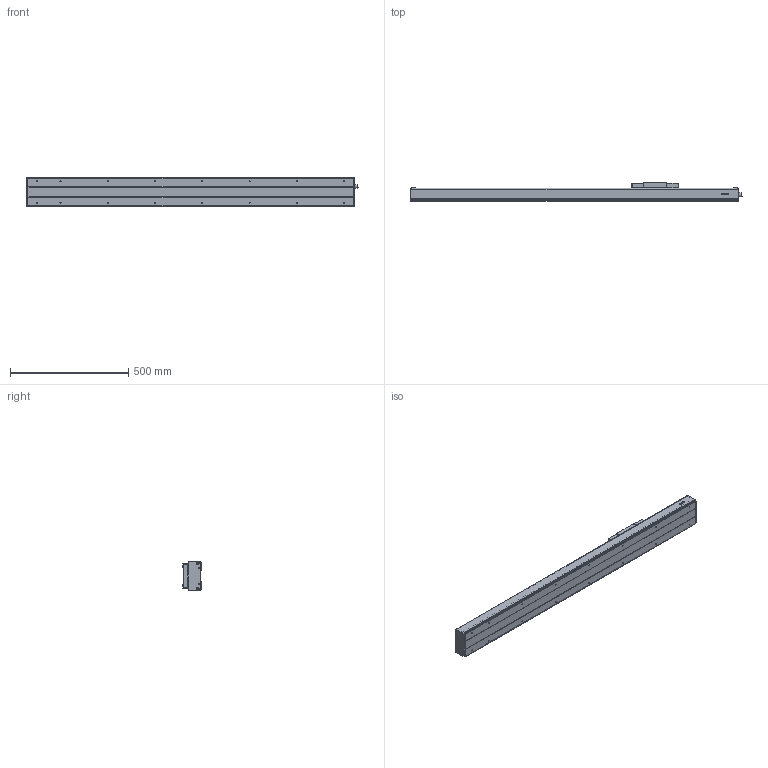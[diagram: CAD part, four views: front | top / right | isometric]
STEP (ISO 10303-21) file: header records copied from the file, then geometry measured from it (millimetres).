
FILE_DESCRIPTION(/* description */ (''),/* implementation_level */ '2;1');
FILE_NAME(/* name */ 'D:\混合母檔20191031\混和母檔\混和母檔\bin\Debug\Download\3D\KS120-5C-900AFI\KS120-5C-900AFI.stp',/* time_stamp */ '2019-11-04T15:05:48+08:00',/* author */ ('user'),/* organization */ (''),/* preprocessor_version */ 'ST-DEVELOPER v16.13',/* originating_system */ 'Autodesk Inventor 2018',/* authorisation */ '');
FILE_SCHEMA (('AUTOMOTIVE_DESIGN { 1 0 10303 214 3 1 1 }'));
Length unit declared in the file: millimetre
Products named in the file (3): KS120-5C-900AFI; KS120-FI; KS120-SL
Assembly tree (2 placements, depth 2):
  KS120-5C-900AFI
    KS120-FI
    KS120-SL
Bounding box: 1404.5 x 77 x 120 mm (x, y, z)
Volume: 3256821.9 mm3; surface area: 1089179.6 mm2
Topology: 4 solids, 11 shells, 1003 faces, 2578 edges, 1665 vertices
Faces by surface type: plane 575, cylinder 190, bspline 136, cone 84, torus 14, sphere 4
Full cylindrical faces by diameter (mm): 2.459 x6, 3.242 x4, 4 x32, 4.3 x4, 4.5 x12, 4.917 x16, 6 x6, 7 x4, 8 x9, 8.4 x12, 10.437 x1, 12 x2, 14 x1, 15 x1, 15.538 x1, 19 x1, 28 x1, 30 x1
Entity records: 33194 total; most frequent: CARTESIAN_POINT 10644, ORIENTED_EDGE 4580, DIRECTION 4202, EDGE_CURVE 2288, VERTEX_POINT 1579, LINE 1534, VECTOR 1534, AXIS2_PLACEMENT_3D 1334
